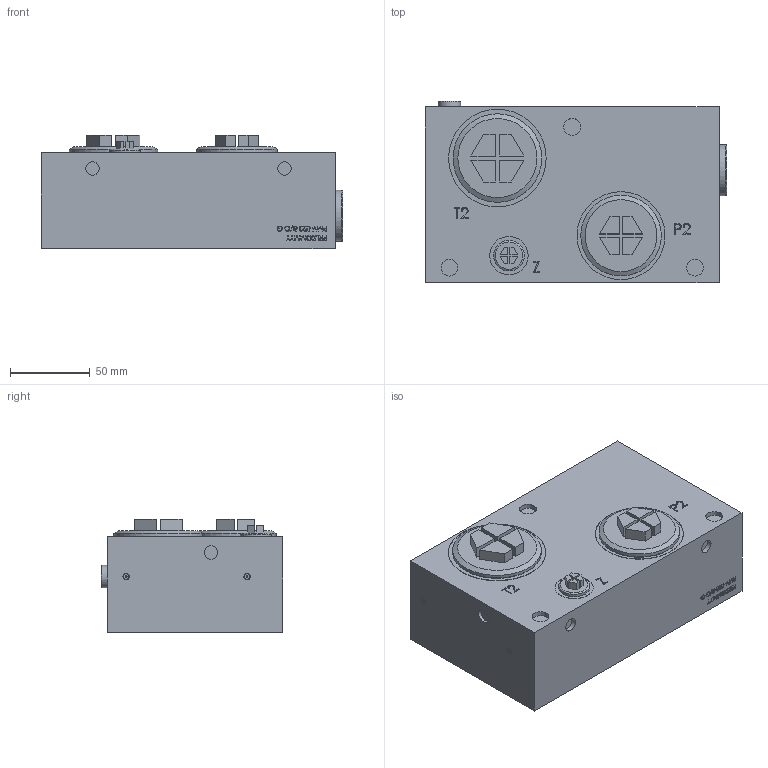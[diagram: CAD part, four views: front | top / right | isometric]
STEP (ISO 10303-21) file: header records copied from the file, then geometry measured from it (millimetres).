
FILE_DESCRIPTION (( 'STEP AP214' ), '1' );
FILE_NAME ('0304556.STEP', '2022-08-02T14:14:38', ( '' ), ( '' ), 'SwSTEP 2.0', 'SolidWorks 2020', '' );
FILE_SCHEMA (( 'AUTOMOTIVE_DESIGN' ));
Length unit declared in the file: millimetre
Products named in the file (8): 0294714_002; 0072022_238.7401; 0295366_001; 0283782_001; 0166400_001; 0304556; 0295364_001; 0072022_238.1405
Assembly tree (8 placements, depth 2):
  0304556
    0294714_002
    0283782_001  x2
    0072022_238.1405
    0072022_238.7401
    0295364_001
    0295366_001
    0166400_001
Bounding box: 188.3 x 113.7 x 70.7 mm (x, y, z)
Volume: 1237756.7 mm3; surface area: 106419.7 mm2
Topology: 12 solids, 12 shells, 677 faces, 1604 edges, 1058 vertices
Faces by surface type: plane 425, cylinder 102, bspline 88, cone 60, torus 2
Full cylindrical faces by diameter (mm): 0.6 x2, 1.1 x2, 3.5 x2, 3.767 x2, 4 x3, 5 x1, 8 x2, 8.3 x1, 8.4 x1, 8.5 x3, 8.566 x1, 9.7 x1, 10.5 x6, 11.445 x1, 11.9 x1, 11.91 x1, 13.16 x1, 14 x1, 18 x1, 19.2 x1, 22 x1, 23.8 x1, 23.9 x1, 24 x1, 24.117 x1, 26.4 x1, 28 x2, 29.2 x1, 29.21 x1, 32 x1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
Entity records: 24213 total; most frequent: CARTESIAN_POINT 8921, ORIENTED_EDGE 2862, DIRECTION 2642, EDGE_CURVE 1431, VECTOR 1006, LINE 1006, VERTEX_POINT 1001, EDGE_LOOP 848
